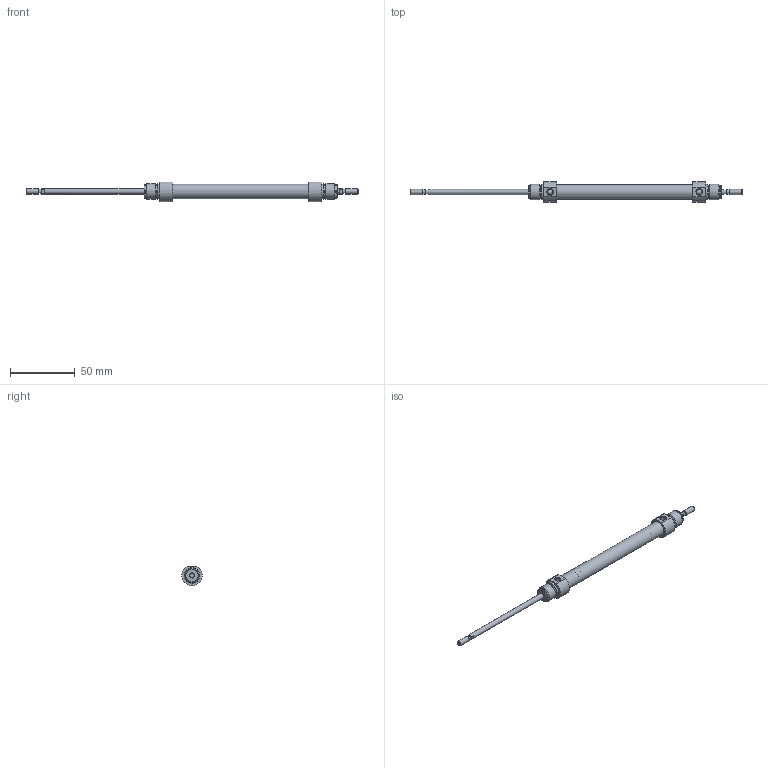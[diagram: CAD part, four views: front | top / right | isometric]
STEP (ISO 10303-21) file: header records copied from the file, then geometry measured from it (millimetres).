
FILE_DESCRIPTION( ( 'STEP AP203' ), '1' );
FILE_NAME( '//expscmdclustefs.cadenas.external/client_exchange/iodir/jobs/output/wkb68274461_no0/STEP/M101-010-0075-M__0__2_03.stp', ' ', ( ' ' ), ( ' ' ), 'PSStep 15.0.47', 'PARTsolutions', ' ' );
FILE_SCHEMA( ( 'CONFIG_CONTROL_DESIGN' ) );
Length unit declared in the file: millimetre
Products named in the file (3): M101-010-0075-M [0]; HI_M101-010-0075-M-[0]-z; HI_M101-010-0075-M-[0]-k
Assembly tree (2 placements, depth 2):
  M101-010-0075-M [0]
    HI_M101-010-0075-M-[0]-z
    HI_M101-010-0075-M-[0]-k
Bounding box: 256 x 15.77 x 14.87 mm (x, y, z)
Volume: 13125.9 mm3; surface area: 13182.4 mm2
Topology: 2 solids, 2 shells, 71 faces, 145 edges, 88 vertices
Faces by surface type: plane 32, cylinder 23, cone 14, torus 2
Full cylindrical faces by diameter (mm): 3.141 x2, 4 x6, 4.134 x2, 10 x2, 10.466 x4, 11.3 x1, 12 x4
Entity records: 1838 total; most frequent: CARTESIAN_POINT 358, DIRECTION 312, ORIENTED_EDGE 212, AXIS2_PLACEMENT_3D 140, EDGE_LOOP 120, EDGE_CURVE 106, FACE_OUTER_BOUND 94, VERTEX_POINT 82
